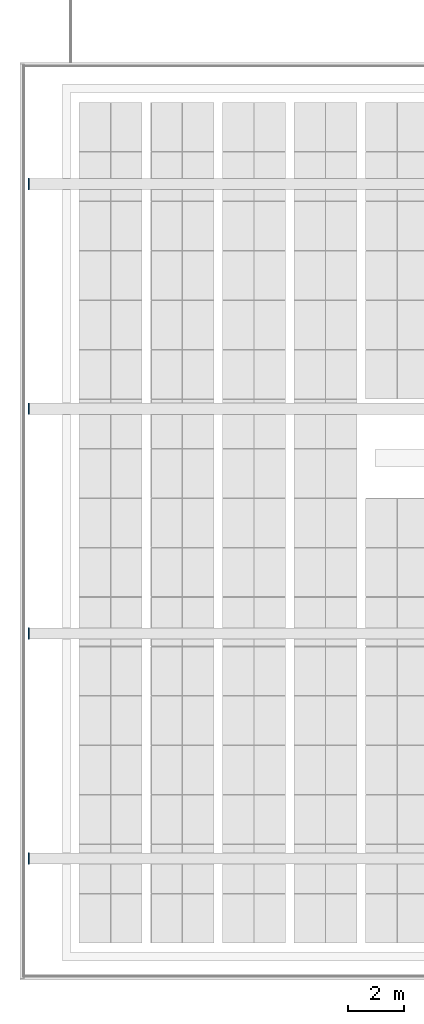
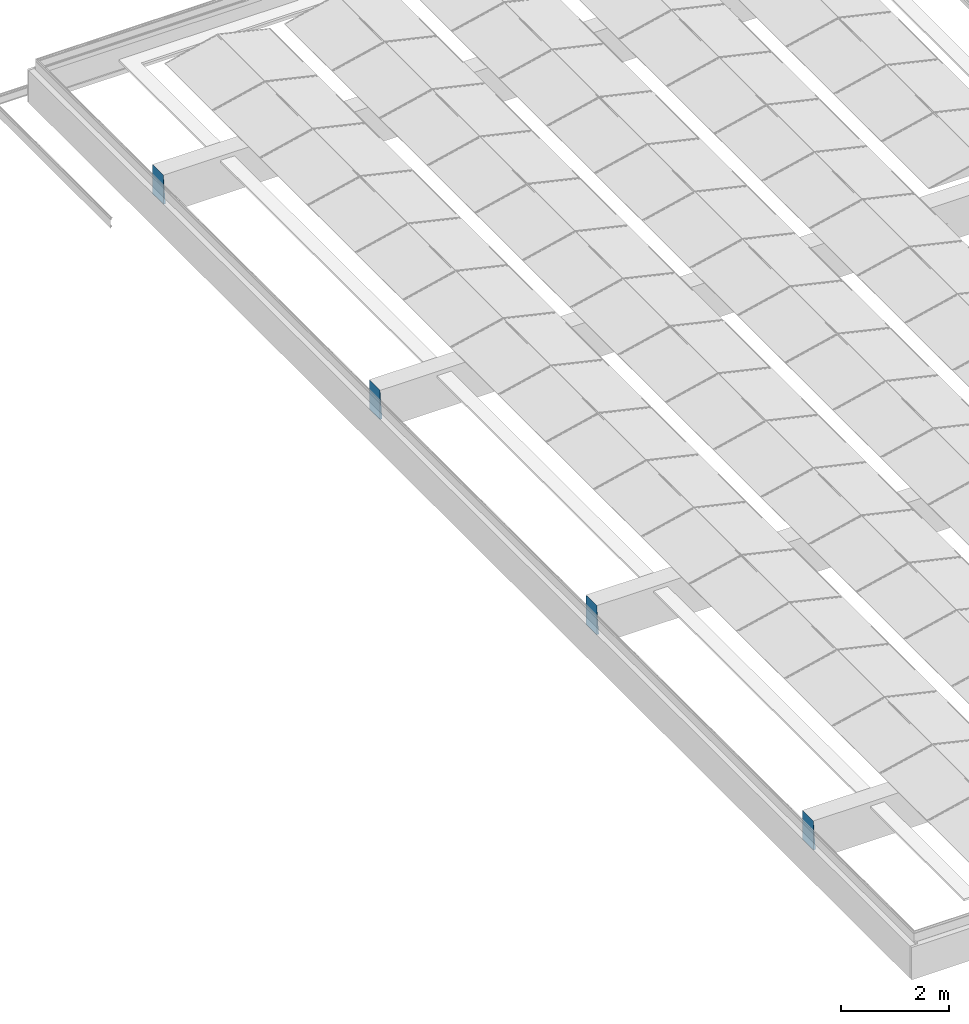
# One storey, part 5 of 25: 4 beams.
"""IFC2X3 building model written with IfcOpenShell, lengths in millimetres."""

from ifc_helpers import new_model, entity, si_unit, converted_unit, derived_unit, money_unit, direction, frame, origin_with_axes, place, context, subcontext, project, spatial, faceted_brep, material, type_object, element, save


model = new_model("IFC2X3")

# Units and contexts
model_context = context("Model", 3, precision=0.01, world=origin_with_axes(), true_north=direction((0.0, 1.0)))
body_context = subcontext(model_context, "Body", "Model", "MODEL_VIEW")
ifc_project = project(units=[si_unit("LENGTHUNIT", "METRE", prefix="MILLI"), si_unit("AREAUNIT", "SQUARE_METRE"), si_unit("VOLUMEUNIT", "CUBIC_METRE"), converted_unit("PLANEANGLEUNIT", "DEGREE", entity("IfcPlaneAngleMeasure", 0.0174532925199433), si_unit("PLANEANGLEUNIT", "RADIAN"), dimensions=[0, 0, 0, 0, 0, 0, 0]), money_unit("EUR"), converted_unit("TIMEUNIT", "Year", entity("IfcTimeMeasure", 31557600.0), si_unit("TIMEUNIT", "SECOND"), dimensions=[0, 0, 1, 0, 0, 0, 0]), si_unit("MASSUNIT", "GRAM", prefix="KILO"), si_unit("THERMODYNAMICTEMPERATUREUNIT", "DEGREE_CELSIUS"), si_unit("LUMINOUSINTENSITYUNIT", "LUMEN"), si_unit("ENERGYUNIT", "JOULE", prefix="MEGA"), derived_unit("THERMALCONDUCTANCEUNIT", [(si_unit("POWERUNIT", "WATT"), 1), (si_unit("LENGTHUNIT", "METRE"), -1), (si_unit("THERMODYNAMICTEMPERATUREUNIT", "KELVIN"), -1)]), derived_unit("SPECIFICHEATCAPACITYUNIT", [(si_unit("ENERGYUNIT", "JOULE"), 1), (si_unit("MASSUNIT", "GRAM", prefix="KILO"), -1), (si_unit("THERMODYNAMICTEMPERATUREUNIT", "KELVIN"), -1)]), derived_unit("MASSDENSITYUNIT", [(si_unit("MASSUNIT", "GRAM", prefix="KILO"), 1), (si_unit("VOLUMEUNIT", "CUBIC_METRE"), -1)])], contexts=[model_context])

# Site, building, storey
site_placement = place(None, origin_with_axes())
site = spatial("IfcSite", under=ifc_project, at=site_placement, Name="<site naam>", CompositionType="ELEMENT")
building_placement = place(site_placement, origin_with_axes())
building = spatial("IfcBuilding", under=site, at=building_placement, Name="<Naam gebouw>", CompositionType="ELEMENT")
storey_placement = place(building_placement, frame((0.0, 0.0, 9563.0), z_axis=(0.0, 0.0, 1.0), x_axis=(1.0, 0.0, 0.0)))
storey = spatial("IfcBuildingStorey", under=building, at=storey_placement, Name="03 3e tussenverdieping", CompositionType="ELEMENT", Elevation=9563.0)

# Beams
ifc_material = material(Name="beton_gewapend_prefab")
beam_type = type_object("IfcBeamType", Name="beton_gewapend_prefab 400 x 896", PredefinedType="BEAM")
beam_1_placement = place(storey_placement, frame((-12034.99999999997, 8000.000000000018, -773.0000000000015), z_axis=(0.0, 0.0, 1.0), x_axis=(0.0, -1.0, 0.0)))
element("IfcBeam", 1, at=beam_1_placement, inside=storey, type_object=beam_type, material=ifc_material, Name="28_Balk_beton_gewapend_prefab", ObjectType="BEAM", context=body_context, shape_type="Brep", body=[
    faceted_brep([(200.0000000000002, 44.78702842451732, -657.61843587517), (200.0000000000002, 0.0, -657.6184359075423), (-199.9999999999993, 0.0, -657.6184359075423), (-199.9999999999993, 44.78702842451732, -657.61843587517), (200.0000000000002, 0.0, 0.0), (-199.9999999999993, 0.0, 0.0)], [[[0, 1, 2, 3]], [[0, 4, 1]], [[4, 5, 2, 1]], [[3, 2, 5]], [[4, 0, 3, 5]]]),
])
beam_2_placement = place(storey_placement, frame((-12034.99999999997, 16000.00000000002, -773.0000000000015), z_axis=(0.0, 0.0, 1.0), x_axis=(0.0, -1.0, 0.0)))
element("IfcBeam", 2, at=beam_2_placement, inside=storey, type_object=beam_type, material=ifc_material, Name="28_Balk_beton_gewapend_prefab", ObjectType="BEAM", context=body_context, shape_type="Brep", body=[
    faceted_brep([(199.9999999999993, 44.78702842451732, -657.61843587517), (199.9999999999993, 0.0, -657.6184359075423), (-199.9999999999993, 0.0, -657.6184359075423), (-199.9999999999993, 44.78702842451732, -657.61843587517), (199.9999999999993, 0.0, 0.0), (-199.9999999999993, 0.0, 0.0)], [[[0, 1, 2, 3]], [[0, 4, 1]], [[4, 5, 2, 1]], [[3, 2, 5]], [[4, 0, 3, 5]]]),
])
beam_3_placement = place(storey_placement, frame((-12034.99999999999, -7999.999999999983, -773.0000000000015), z_axis=(0.0, 0.0, 1.0), x_axis=(0.0, -1.0, 0.0)))
element("IfcBeam", 3, at=beam_3_placement, inside=storey, type_object=beam_type, material=ifc_material, Name="28_Balk_beton_gewapend_prefab", ObjectType="BEAM", context=body_context, shape_type="Brep", body=[
    faceted_brep([(200.0000000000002, 0.0, -657.6184359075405), (-200.0000000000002, 0.0, -657.6184359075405), (-200.0000000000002, 44.78702842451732, -657.6184358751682), (200.0000000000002, 44.78702842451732, -657.6184358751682), (-200.0000000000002, 0.0, 0.0), (200.0000000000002, 0.0, 0.0)], [[[0, 1, 2, 3]], [[4, 1, 0, 5]], [[4, 2, 1]], [[3, 2, 4, 5]], [[5, 0, 3]]]),
])
beam_4_placement = place(storey_placement, frame((-12035.00000000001, 0.0, -773.0000000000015), z_axis=(0.0, 0.0, 1.0), x_axis=(0.0, -1.0, 0.0)))
element("IfcBeam", 4, at=beam_4_placement, inside=storey, type_object=beam_type, material=ifc_material, Name="28_Balk_beton_gewapend_prefab", ObjectType="BEAM", context=body_context, shape_type="Brep", body=[
    faceted_brep([(200.0000000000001, 0.0, -657.618435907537), (-199.9999999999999, 0.0, -657.618435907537), (-200.0, 44.78702842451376, -657.6184358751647), (200.0, 44.78702842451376, -657.6184358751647), (-200.0, 0.0, 0.0), (200.0, 0.0, 0.0)], [[[0, 1, 2, 3]], [[4, 1, 0, 5]], [[4, 2, 1]], [[3, 2, 4, 5]], [[5, 0, 3]]]),
])

save(model, "model.ifc")
